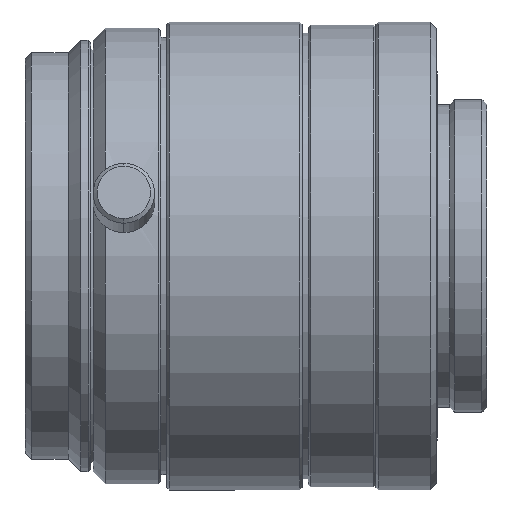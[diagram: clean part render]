
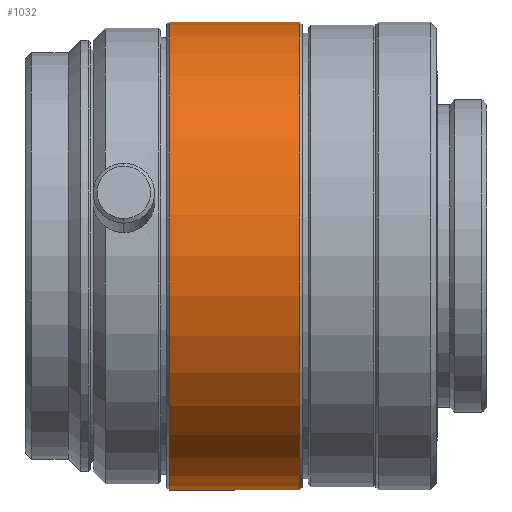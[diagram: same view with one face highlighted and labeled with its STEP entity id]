
A CAD part, top view. The second image highlights one B-rep face of the part: STEP entity #1032.
In plain terms, the highlighted cylindrical face has radius 19 mm (diameter 38 mm), a partial arc.
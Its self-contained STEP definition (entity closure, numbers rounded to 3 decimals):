
#49 = CARTESIAN_POINT ( 'NONE',  ( -28.726, -19., 0. ) ) ;
#222 = ORIENTED_EDGE ( 'NONE', *, *, #3316, .F. ) ;
#226 = LINE ( 'NONE', #2815, #822 ) ;
#237 = DIRECTION ( 'NONE',  ( 1., 0., 0. ) ) ;
#370 = DIRECTION ( 'NONE',  ( 1., 0., 0. ) ) ;
#490 = AXIS2_PLACEMENT_3D ( 'NONE', #1921, #370, #2182 ) ;
#514 = VERTEX_POINT ( 'NONE', #2411 ) ;
#681 = CARTESIAN_POINT ( 'NONE',  ( 0., 19., 0. ) ) ;
#767 = CARTESIAN_POINT ( 'NONE',  ( 0., 0., 0. ) ) ;
#822 = VECTOR ( 'NONE', #992, 1000. ) ;
#869 = EDGE_CURVE ( 'NONE', #1363, #514, #3131, .T. ) ;
#992 = DIRECTION ( 'NONE',  ( 1., 0., 0. ) ) ;
#1023 = DIRECTION ( 'NONE',  ( 0., 1., 0. ) ) ;
#1032 = ADVANCED_FACE ( 'NONE', ( #3318 ), #3229, .T. ) ;
#1104 = CIRCLE ( 'NONE', #2231, 19. ) ;
#1108 = VECTOR ( 'NONE', #2227, 1000. ) ;
#1122 = EDGE_CURVE ( 'NONE', #1953, #1200, #226, .T. ) ;
#1200 = VERTEX_POINT ( 'NONE', #49 ) ;
#1363 = VERTEX_POINT ( 'NONE', #3075 ) ;
#1400 = EDGE_CURVE ( 'NONE', #1363, #1953, #1104, .T. ) ;
#1756 = ORIENTED_EDGE ( 'NONE', *, *, #1122, .T. ) ;
#1795 = CARTESIAN_POINT ( 'NONE',  ( -39.326, 0., 0. ) ) ;
#1921 = CARTESIAN_POINT ( 'NONE',  ( -28.726, 0., 0. ) ) ;
#1953 = VERTEX_POINT ( 'NONE', #2822 ) ;
#2052 = DIRECTION ( 'NONE',  ( 0., 1., 0. ) ) ;
#2182 = DIRECTION ( 'NONE',  ( 0., 1., 0. ) ) ;
#2227 = DIRECTION ( 'NONE',  ( 1., 0., 0. ) ) ;
#2231 = AXIS2_PLACEMENT_3D ( 'NONE', #1795, #237, #2052 ) ;
#2411 = CARTESIAN_POINT ( 'NONE',  ( -28.726, 19., 0. ) ) ;
#2601 = DIRECTION ( 'NONE',  ( 1., 0., 0. ) ) ;
#2764 = EDGE_LOOP ( 'NONE', ( #3120, #1756, #222, #3337 ) ) ;
#2815 = CARTESIAN_POINT ( 'NONE',  ( 0., -19., 0. ) ) ;
#2822 = CARTESIAN_POINT ( 'NONE',  ( -39.326, -19., 0. ) ) ;
#2887 = CIRCLE ( 'NONE', #490, 19. ) ;
#3075 = CARTESIAN_POINT ( 'NONE',  ( -39.326, 19., 0. ) ) ;
#3120 = ORIENTED_EDGE ( 'NONE', *, *, #1400, .T. ) ;
#3131 = LINE ( 'NONE', #681, #1108 ) ;
#3229 = CYLINDRICAL_SURFACE ( 'NONE', #3240, 19. ) ;
#3240 = AXIS2_PLACEMENT_3D ( 'NONE', #767, #2601, #1023 ) ;
#3316 = EDGE_CURVE ( 'NONE', #514, #1200, #2887, .T. ) ;
#3318 = FACE_OUTER_BOUND ( 'NONE', #2764, .T. ) ;
#3337 = ORIENTED_EDGE ( 'NONE', *, *, #869, .F. ) ;
